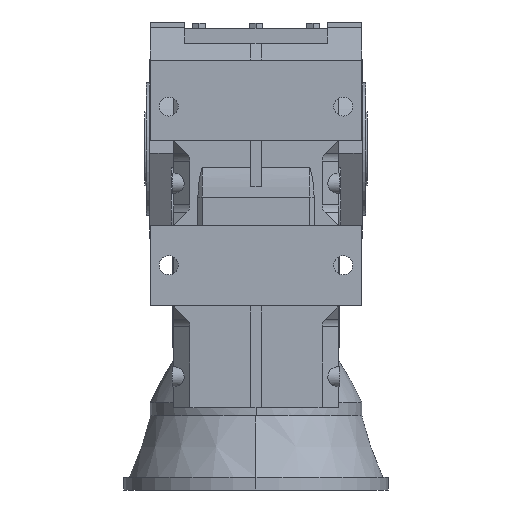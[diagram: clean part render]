
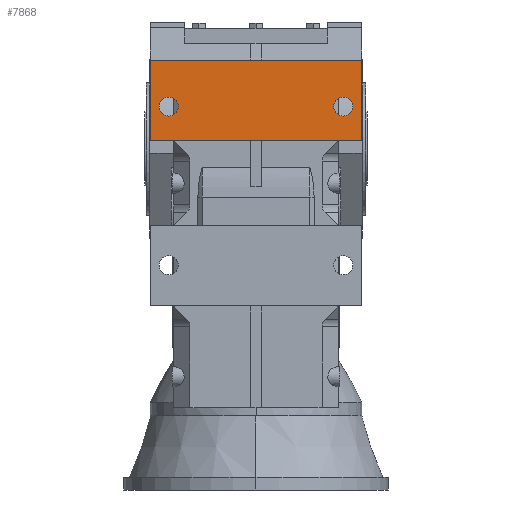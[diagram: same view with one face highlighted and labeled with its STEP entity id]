
A CAD part, front view. The second image highlights one B-rep face of the part: STEP entity #7868.
In plain terms, the highlighted planar face has unit normal (0, -1, 0).
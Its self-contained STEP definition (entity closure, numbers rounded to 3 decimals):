
#54=DIRECTION('',(1.,0.,0.));
#55=VECTOR('',#54,76.);
#56=CARTESIAN_POINT('',(-84.,-180.,100.));
#57=LINE('',#56,#55);
#128=CARTESIAN_POINT('',(-40.,-180.,-82.5));
#129=DIRECTION('',(0.,-1.,0.));
#130=DIRECTION('',(1.,0.,0.));
#131=AXIS2_PLACEMENT_3D('',#128,#129,#130);
#133=CARTESIAN_POINT('',(-40.,-180.,-82.5));
#134=DIRECTION('',(0.,-1.,0.));
#135=DIRECTION('',(-1.,0.,0.));
#136=AXIS2_PLACEMENT_3D('',#133,#134,#135);
#138=CARTESIAN_POINT('',(-40.,-180.,82.5));
#139=DIRECTION('',(0.,1.,0.));
#140=DIRECTION('',(1.,0.,0.));
#141=AXIS2_PLACEMENT_3D('',#138,#139,#140);
#143=CARTESIAN_POINT('',(-40.,-180.,82.5));
#144=DIRECTION('',(0.,1.,0.));
#145=DIRECTION('',(-1.,0.,0.));
#146=AXIS2_PLACEMENT_3D('',#143,#144,#145);
#818=DIRECTION('',(0.,0.,1.));
#819=VECTOR('',#818,200.);
#820=CARTESIAN_POINT('',(-8.,-180.,-100.));
#821=LINE('',#820,#819);
#1666=DIRECTION('',(1.,0.,0.));
#1667=VECTOR('',#1666,76.);
#1668=CARTESIAN_POINT('',(-84.,-180.,-100.));
#1669=LINE('',#1668,#1667);
#3345=DIRECTION('',(0.,0.,-1.));
#3346=VECTOR('',#3345,200.);
#3347=CARTESIAN_POINT('',(-84.,-180.,100.));
#3348=LINE('',#3347,#3346);
#5934=CARTESIAN_POINT('',(-84.,-180.,100.));
#5935=VERTEX_POINT('',#5934);
#5942=CARTESIAN_POINT('',(-8.,-180.,100.));
#5943=VERTEX_POINT('',#5942);
#6270=CARTESIAN_POINT('',(-84.,-180.,-100.));
#6271=VERTEX_POINT('',#6270);
#6282=CARTESIAN_POINT('',(-8.,-180.,-100.));
#6283=VERTEX_POINT('',#6282);
#6878=CARTESIAN_POINT('',(-31.,-180.,82.5));
#6879=CARTESIAN_POINT('',(-49.,-180.,82.5));
#6880=VERTEX_POINT('',#6878);
#6881=VERTEX_POINT('',#6879);
#7170=CARTESIAN_POINT('',(-31.,-180.,-82.5));
#7171=CARTESIAN_POINT('',(-49.,-180.,-82.5));
#7172=VERTEX_POINT('',#7170);
#7173=VERTEX_POINT('',#7171);
#7842=CARTESIAN_POINT('',(-120.,-180.,0.));
#7843=DIRECTION('',(0.,-1.,0.));
#7844=DIRECTION('',(1.,0.,0.));
#7845=AXIS2_PLACEMENT_3D('',#7842,#7843,#7844);
#7846=PLANE('',#7845);
#7848=ORIENTED_EDGE('',*,*,#7847,.F.);
#7850=ORIENTED_EDGE('',*,*,#7849,.F.);
#7852=ORIENTED_EDGE('',*,*,#7851,.F.);
#7853=ORIENTED_EDGE('',*,*,#7778,.T.);
#7854=EDGE_LOOP('',(#7848,#7850,#7852,#7853));
#7855=FACE_OUTER_BOUND('',#7854,.F.);
#7857=ORIENTED_EDGE('',*,*,#7856,.T.);
#7859=ORIENTED_EDGE('',*,*,#7858,.T.);
#7860=EDGE_LOOP('',(#7857,#7859));
#7861=FACE_BOUND('',#7860,.F.);
#7863=ORIENTED_EDGE('',*,*,#7862,.F.);
#7865=ORIENTED_EDGE('',*,*,#7864,.F.);
#7866=EDGE_LOOP('',(#7863,#7865));
#7867=FACE_BOUND('',#7866,.F.);
#7868=ADVANCED_FACE('',(#7855,#7861,#7867),#7846,.T.);
#132=CIRCLE('',#131,9.);
#137=CIRCLE('',#136,9.);
#142=CIRCLE('',#141,9.);
#147=CIRCLE('',#146,9.);
#7778=EDGE_CURVE('',#5935,#5943,#57,.T.);
#7847=EDGE_CURVE('',#6283,#5943,#821,.T.);
#7849=EDGE_CURVE('',#6271,#6283,#1669,.T.);
#7851=EDGE_CURVE('',#5935,#6271,#3348,.T.);
#7856=EDGE_CURVE('',#7172,#7173,#132,.T.);
#7858=EDGE_CURVE('',#7173,#7172,#137,.T.);
#7862=EDGE_CURVE('',#6880,#6881,#142,.T.);
#7864=EDGE_CURVE('',#6881,#6880,#147,.T.);
